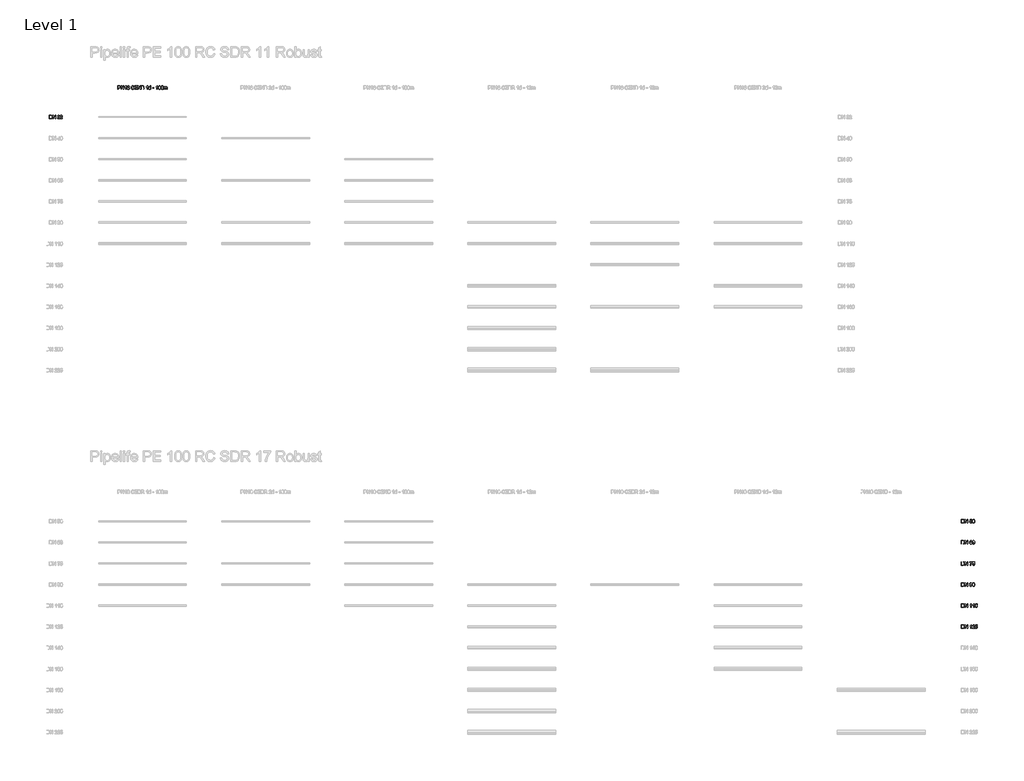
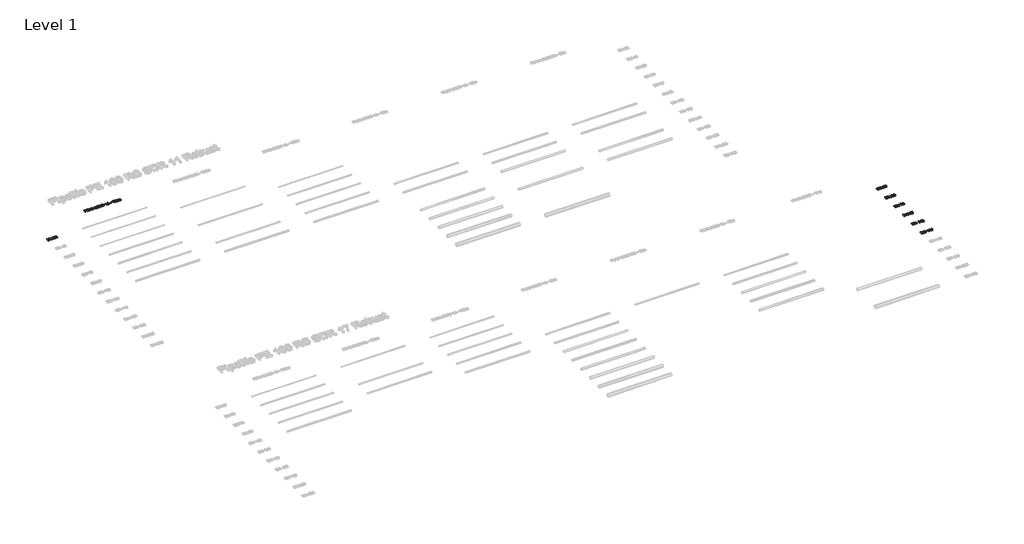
# One storey, part 10 of 13: 8 proxies.
"""IFC4 building model written with IfcOpenShell, lengths in millimetres."""

from ifc_helpers import new_model, si_unit, origin, origin_with_axes, place, context, project, spatial, polyline, outline, extrude, element, save

model = new_model("IFC4")

# Units and contexts
model_context = context("Model", 3, world=origin())
ifc_project = project(units=[si_unit("LENGTHUNIT", "METRE", prefix="MILLI")], contexts=[model_context])

# Site, building, storey
site = spatial("IfcSite", under=ifc_project)
building = spatial("IfcBuilding", under=site)
storey = spatial("IfcBuildingStorey", under=building, Name="Level 1", Elevation=0.0)

# Proxies
placement = place(None, origin())
element("IfcBuildingElementProxy", 1, Name="200mm Arial", ObjectType="200mm Arial", at=placement, inside=storey, context=model_context, shape_type="SweptSolid", body=[
    extrude(outline(polyline([(-19337.4878779, 486.050427), (-19337.4878779, 686.9630473), (-19268.17891, 686.9630473), (-19232.3226782, 684.0690423), (-19216.3075487, 678.4894987), (-19202.7940167, 669.697119), (-19188.90034, 654.393228), (-19179.0043144, 635.3614662), (-19173.0814143, 612.9697154), (-19171.1071142, 587.5858577), (-19176.4536659, 547.0452618), (-19190.187927, 517.7863805), (-19208.5329759, 499.563959), (-19232.5434074, 489.4839923), (-19264.8434466, 486.050427), (-19337.4878779, 486.050427)]), holes=[polyline([(-19312.3738004, 511.1645046), (-19267.9336553, 511.1645046), (-19235.6090907, 514.7942736), (-19216.9697363, 525.0459185), (-19208.2448016, 535.9168315), (-19201.6903707, 549.9883178), (-19197.5884865, 567.3216911), (-19196.2211917, 587.9782652), (-19198.9005989, 615.3486856), (-19206.9388205, 635.5576699), (-19218.8152776, 649.4390838), (-19233.0093913, 657.8267933), (-19268.6203684, 661.8489698), (-19312.3738004, 661.8489698), (-19312.3738004, 511.1645046)])]), origin_with_axes(), (0.0, 0.0, 1.0), 50.0),
    extrude(outline(polyline([(-19136.5752576, 486.050427), (-19136.5752576, 686.9630473), (-19109.6953465, 686.9630473), (-19004.7263505, 527.7927708), (-19004.7263505, 686.9630473), (-18979.612273, 686.9630473), (-18979.612273, 486.050427), (-19006.4921841, 486.050427), (-19111.4611801, 645.2697546), (-19111.4611801, 486.050427), (-19136.5752576, 486.050427)])), origin_with_axes(), (0.0, 0.0, 1.0), 50.0),
    extrude(outline(polyline([(-18866.5989241, 539.4178418), (-18841.4848465, 542.5571015), (-18835.8623834, 526.7749639), (-18827.627958, 516.1186488), (-18816.3769004, 510.0485959), (-18801.7045401, 508.0252449), (-18784.4876627, 510.8088853), (-18771.19486, 519.1598066), (-18762.6967859, 531.6187435), (-18759.8640945, 546.7264308), (-18762.6722604, 561.0676972), (-18771.0967581, 572.6988996), (-18783.8500006, 580.4060274), (-18799.6444009, 582.97507), (-18817.2536858, 580.2282178), (-18814.4577826, 605.3422953), (-18810.4356061, 605.0479898), (-18795.3892325, 606.8506115), (-18781.9370142, 612.2584769), (-18772.4456588, 621.4064758), (-18769.2818736, 634.4294984), (-18771.5750047, 645.2758859), (-18778.454398, 654.074397), (-18788.9512976, 659.9053266), (-18802.0969476, 661.8489698), (-18815.267123, 659.8869325), (-18826.0338027, 654.0008206), (-18833.8942147, 644.190634), (-18838.3455868, 630.4563729), (-18863.4596644, 633.5956326), (-18856.0652363, 656.1467989), (-18842.9073236, 672.9835315), (-18824.9056313, 683.4681684), (-18802.9798644, 686.9630473), (-18787.1915954, 685.2401333), (-18772.6909134, 680.0713913), (-18760.4649685, 671.9166737), (-18751.5009105, 661.2358331), (-18746.0010747, 648.9301804), (-18744.1677961, 635.9010264), (-18745.9091042, 623.7609206), (-18751.1330285, 612.7489862), (-18759.7659927, 603.3679953), (-18771.7344202, 596.12072), (-18756.0135963, 589.7686242), (-18744.3639998, 578.9528936), (-18737.1535127, 564.2621392), (-18734.750017, 546.2849724), (-18739.5570084, 521.808557), (-18753.9779826, 501.354318), (-18775.744334, 487.521955), (-18802.5874569, 482.9111674), (-18826.8676686, 486.8475047), (-18846.6351945, 498.6565167), (-18860.3817184, 516.7195227), (-18866.5989241, 539.4178418)])), origin_with_axes(), (0.0, 0.0, 1.0), 50.0),
    extrude(outline(polyline([(-18584.0655518, 511.1645046), (-18584.0655518, 486.050427), (-18715.9144588, 486.050427), (-18713.2166575, 503.3654063), (-18697.9618175, 530.0245882), (-18666.5201696, 559.1363168), (-18623.1591451, 600.9767623), (-18615.028953, 615.3977366), (-18612.318889, 629.4263033), (-18614.8756689, 642.0017362), (-18622.5460085, 652.4557162), (-18634.3366264, 659.5006564), (-18649.2542413, 661.8489698), (-18664.9198829, 659.5558387), (-18677.0906456, 652.6764454), (-18684.9449262, 641.7503501), (-18687.6611216, 627.3171132), (-18712.7751992, 630.4563729), (-18706.6867521, 654.7488473), (-18693.5227081, 672.4930222), (-18673.96978, 683.3455411), (-18648.7146811, 686.9630473), (-18623.2756411, 682.9408709), (-18603.7595012, 670.8743414), (-18591.3434839, 652.8481237), (-18587.2048115, 630.9468822), (-18591.6684463, 607.1326544), (-18606.5063535, 582.5090862), (-18642.4852126, 548.0998569), (-18671.376212, 523.9422725), (-18682.7069774, 511.1645046), (-18584.0655518, 511.1645046)])), origin_with_axes(), (0.0, 0.0, 1.0), 50.0),
])
element("IfcBuildingElementProxy", 2, Name="200mm Arial", ObjectType="200mm Arial", at=placement, inside=storey, context=model_context, shape_type="SweptSolid", body=[
    extrude(outline(polyline([(-15440.6250972, 2161.9491293), (-15440.6250972, 2362.8617496), (-15366.1657813, 2362.8617496), (-15336.1466105, 2360.9487633), (-15311.7437715, 2351.5555097), (-15302.8716841, 2343.2291138), (-15295.9248457, 2332.1313403), (-15291.4366854, 2319.0408726), (-15289.9406319, 2304.7363944), (-15293.9812025, 2281.0570566), (-15306.1029143, 2261.326319), (-15315.8104004, 2253.5578775), (-15328.7705765, 2248.0089907), (-15364.4489987, 2243.5698813), (-15415.5110196, 2243.5698813), (-15415.5110196, 2161.9491293), (-15440.6250972, 2161.9491293)]), holes=[polyline([(-15415.5110196, 2268.6839589), (-15362.9774707, 2268.6839589), (-15340.7083473, 2270.9893527), (-15325.9930675, 2277.9055342), (-15317.789299, 2289.0033077), (-15315.0547095, 2303.8534776), (-15316.6672589, 2315.1351921), (-15321.5049071, 2324.6510731), (-15328.9667803, 2331.8125092), (-15338.4520044, 2336.0308895), (-15363.5660819, 2337.7476721), (-15415.5110196, 2337.7476721), (-15415.5110196, 2268.6839589)])]), origin_with_axes(), (0.0, 0.0, 1.0), 50.0),
    extrude(outline(polyline([(-15255.4087753, 2161.9491293), (-15255.4087753, 2362.8617496), (-15228.5288642, 2362.8617496), (-15123.5598682, 2203.6914731), (-15123.5598682, 2362.8617496), (-15098.4457907, 2362.8617496), (-15098.4457907, 2161.9491293), (-15125.3257018, 2161.9491293), (-15230.2946978, 2321.1684569), (-15230.2946978, 2161.9491293), (-15255.4087753, 2161.9491293)])), origin_with_axes(), (0.0, 0.0, 1.0), 50.0),
    extrude(outline(polyline([(-14969.7361433, 2161.9491293), (-14994.8502209, 2161.9491293), (-14994.8502209, 2318.5197065), (-15018.6399232, 2301.5726092), (-15045.0783759, 2288.8929431), (-15045.0783759, 2312.6335946), (-15008.265651, 2336.1289913), (-14994.7950386, 2349.7038369), (-14985.9229511, 2362.8617496), (-14969.7361433, 2362.8617496), (-14969.7361433, 2161.9491293)])), origin_with_axes(), (0.0, 0.0, 1.0), 50.0),
    extrude(outline(polyline([(-14781.3805618, 2309.4943349), (-14806.4946393, 2306.3550752), (-14816.0105203, 2327.2998234), (-14827.4025994, 2335.1357099), (-14841.1736487, 2337.7476721), (-14863.8351797, 2331.6653565), (-14873.2713528, 2322.057505), (-14880.9784806, 2308.8321473), (-14886.1840109, 2290.1253478), (-14888.1153913, 2264.0731712), (-14878.041556, 2275.8270009), (-14865.9688952, 2284.1104772), (-14852.5718592, 2289.0217018), (-14838.5248984, 2290.6587767), (-14815.3238072, 2286.1828791), (-14795.8505869, 2272.7551863), (-14782.6436233, 2252.2396337), (-14778.2413021, 2226.5001568), (-14780.313704, 2208.5168586), (-14786.5309097, 2191.8456728), (-14796.3778845, 2177.7067415), (-14809.3395934, 2167.3202065), (-14824.8274254, 2160.9374539), (-14842.2527693, 2158.8098696), (-14870.7452298, 2164.4507269), (-14893.4374175, 2181.3732987), (-14902.09644, 2194.4821604), (-14908.281456, 2211.2453167), (-14913.2294689, 2255.7345126), (-14907.7357644, 2305.7542013), (-14900.8686338, 2324.8319484), (-14891.254651, 2339.9549641), (-14880.8343935, 2349.9766828), (-14868.7525357, 2357.1350532), (-14839.6040189, 2362.8617496), (-14817.5678874, 2359.3178198), (-14799.9218144, 2348.6860301), (-14787.5609793, 2331.8002465), (-14781.3805618, 2309.4943349)]), holes=[polyline([(-14888.1153913, 2226.8925642), (-14882.3028558, 2205.1384756), (-14866.851812, 2189.3440752), (-14844.2148066, 2183.9239472), (-14827.6417227, 2186.7321131), (-14814.6125687, 2195.1566108), (-14806.1696769, 2208.4003626), (-14803.3553796, 2225.6662909), (-14806.1328887, 2242.2393748), (-14814.4654159, 2254.8761213), (-14827.7152991, 2262.8775547), (-14845.2448762, 2265.5446992), (-14861.7934346, 2262.8775547), (-14875.631929, 2254.8761213), (-14884.9945257, 2242.5459431), (-14888.1153913, 2226.8925642)])]), origin_with_axes(), (0.0, 0.0, 1.0), 50.0),
    extrude(outline(polyline([(-14527.1005267, 2233.3672873), (-14501.9864492, 2226.8925642), (-14513.574732, 2197.6275515), (-14531.7603653, 2176.2474762), (-14555.6481696, 2163.1692713), (-14584.3429652, 2158.8098696), (-14613.4730878, 2162.1085449), (-14636.606734, 2172.0045705), (-14654.3386461, 2188.1545901), (-14667.2635669, 2210.2152471), (-14675.1546357, 2236.1509278), (-14677.784992, 2263.9260184), (-14674.8112792, 2293.221688), (-14665.8901408, 2318.5197065), (-14651.4875607, 2339.016865), (-14632.0695227, 2353.9099544), (-14609.0401098, 2362.9782456), (-14583.8034049, 2366.0010093), (-14556.2674376, 2362.0891975), (-14533.5016734, 2350.3537618), (-14516.217351, 2331.5182037), (-14505.1257089, 2306.3060242), (-14530.2397864, 2300.3218105), (-14538.946327, 2318.6362025), (-14550.8411782, 2331.1993726), (-14566.0714928, 2338.465042), (-14584.7844236, 2340.8869318), (-14606.3545712, 2338.2013932), (-14624.0742207, 2330.1447775), (-14637.5203076, 2317.5632133), (-14646.2697677, 2301.3028291), (-14651.0706277, 2282.9209921), (-14652.6709144, 2263.9750693), (-14650.7763221, 2240.7739782), (-14645.0925453, 2220.7121467), (-14635.4049861, 2204.5559957), (-14621.4990467, 2193.0719461), (-14604.8278609, 2186.2109469), (-14586.8445628, 2183.9239472), (-14565.8814204, 2187.0386814), (-14548.413157, 2196.3828841), (-14535.2245875, 2211.8584534), (-14527.1005267, 2233.3672873)])), origin_with_axes(), (0.0, 0.0, 1.0), 50.0),
    extrude(outline(polyline([(-14483.150891, 2161.9491293), (-14483.150891, 2187.9951746), (-14380.3891871, 2313.810817), (-14360.8669158, 2337.7476721), (-14470.5938523, 2337.7476721), (-14470.5938523, 2362.8617496), (-14329.3271661, 2362.8617496), (-14329.3271661, 2337.7476721), (-14441.8009548, 2200.061704), (-14452.3959562, 2187.0632069), (-14326.1879064, 2187.0632069), (-14326.1879064, 2161.9491293), (-14483.150891, 2161.9491293)])), origin_with_axes(), (0.0, 0.0, 1.0), 50.0),
    extrude(outline(polyline([(-14297.9345692, 2161.9491293), (-14297.9345692, 2362.8617496), (-14271.0546581, 2362.8617496), (-14166.0856621, 2203.6914731), (-14166.0856621, 2362.8617496), (-14140.9715846, 2362.8617496), (-14140.9715846, 2161.9491293), (-14167.8514957, 2161.9491293), (-14272.8204917, 2321.1684569), (-14272.8204917, 2161.9491293), (-14297.9345692, 2161.9491293)])), origin_with_axes(), (0.0, 0.0, 1.0), 50.0),
    extrude(outline(polyline([(-14097.0219489, 2161.9491293), (-14097.0219489, 2362.8617496), (-14020.3553411, 2362.8617496), (-13999.2695714, 2361.3840903), (-13982.8068521, 2356.9511123), (-13970.1884997, 2349.4524509), (-13960.6358306, 2338.7777417), (-13954.6209599, 2326.2207029), (-13952.6160031, 2313.075053), (-13954.3021289, 2300.9778667), (-13959.3605063, 2289.6041817), (-13967.8279236, 2279.6529737), (-13979.7411688, 2271.8232186), (-13965.510267, 2264.3920023), (-13954.9949733, 2253.0857623), (-13948.5018561, 2238.6525253), (-13946.3374837, 2221.8403182), (-13952.2481211, 2194.8377797), (-13966.8898245, 2175.6098141), (-13988.742015, 2165.4072201), (-14020.9439523, 2161.9491293), (-14097.0219489, 2161.9491293)]), holes=[polyline([(-14071.9078714, 2187.0632069), (-14020.404392, 2187.0632069), (-14001.7650376, 2188.0442255), (-13985.9951628, 2193.5134045), (-13975.5473141, 2204.6724917), (-13971.4515612, 2221.5950635), (-13976.2585526, 2241.1173347), (-13982.5554661, 2248.1745376), (-13991.8322238, 2252.7669312), (-14022.8569387, 2256.1269201), (-14071.9078714, 2256.1269201), (-14071.9078714, 2187.0632069)]), polyline([(-14071.9078714, 2281.2409976), (-14026.0452493, 2281.2409976), (-13999.2634401, 2283.3992387), (-13983.1502087, 2292.6943904), (-13977.7300806, 2309.0528765), (-13982.7823267, 2325.435888), (-13997.2523518, 2335.1234472), (-14029.5278655, 2337.7476721), (-14071.9078714, 2337.7476721), (-14071.9078714, 2281.2409976)])]), origin_with_axes(), (0.0, 0.0, 1.0), 50.0),
    extrude(outline(polyline([(-13748.5641231, 2161.9491293), (-13773.6782006, 2161.9491293), (-13773.6782006, 2318.5197065), (-13797.467903, 2301.5726092), (-13823.9063557, 2288.8929431), (-13823.9063557, 2312.6335946), (-13787.0936307, 2336.1289913), (-13773.6230183, 2349.7038369), (-13764.7509309, 2362.8617496), (-13748.5641231, 2362.8617496), (-13748.5641231, 2161.9491293)])), origin_with_axes(), (0.0, 0.0, 1.0), 50.0),
    extrude(outline(polyline([(-13591.6011385, 2161.9491293), (-13591.6011385, 2185.6407298), (-13599.1151282, 2173.9022285), (-13608.2171419, 2165.5175847), (-13618.9071796, 2160.4867984), (-13631.1852411, 2158.8098696), (-13647.4210999, 2161.2378908), (-13662.2835325, 2168.5219543), (-13674.8650967, 2180.1531567), (-13684.2583503, 2195.6225946), (-13690.107674, 2214.3048686), (-13692.0574486, 2235.5745793), (-13690.2609582, 2256.5806412), (-13684.871487, 2275.5510895), (-13675.8951663, 2291.4068034), (-13663.3381275, 2303.0686627), (-13648.1507325, 2310.2423616), (-13631.283343, 2312.6335946), (-13618.9960844, 2310.9229433), (-13608.1313028, 2305.7909895), (-13591.6011385, 2288.0100264), (-13591.6011385, 2362.8617496), (-13566.4870609, 2362.8617496), (-13566.4870609, 2161.9491293), (-13591.6011385, 2161.9491293)]), holes=[polyline([(-13666.9433711, 2235.6726812), (-13664.1106797, 2212.955968), (-13655.6126056, 2196.799817), (-13643.2640333, 2187.1429146), (-13628.8798473, 2183.9239472), (-13614.5017927, 2186.9957618), (-13602.4659201, 2196.2112058), (-13594.3173339, 2211.7419574), (-13591.6011385, 2233.7596948), (-13594.3663848, 2257.83144), (-13602.6621238, 2274.5210199), (-13615.0045647, 2284.2698927), (-13629.9099169, 2287.519517), (-13644.4412557, 2284.3986514), (-13656.3483696, 2275.0360547), (-13664.2946207, 2258.9534801), (-13666.9433711, 2235.6726812)])]), origin_with_axes(), (0.0, 0.0, 1.0), 50.0),
    extrude(outline(polyline([(-13462.8914911, 2221.5950635), (-13462.8914911, 2246.709141), (-13384.4099988, 2246.709141), (-13384.4099988, 2221.5950635), (-13462.8914911, 2221.5950635)])), origin_with_axes(), (0.0, 0.0, 1.0), 50.0),
    extrude(outline(polyline([(-13189.7758979, 2161.9491293), (-13214.8899754, 2161.9491293), (-13214.8899754, 2318.5197065), (-13238.6796778, 2301.5726092), (-13265.1181305, 2288.8929431), (-13265.1181305, 2312.6335946), (-13228.3054055, 2336.1289913), (-13214.8347931, 2349.7038369), (-13205.9627057, 2362.8617496), (-13189.7758979, 2362.8617496), (-13189.7758979, 2161.9491293)])), origin_with_axes(), (0.0, 0.0, 1.0), 50.0),
    extrude(outline(polyline([(-13130.1299637, 2260.7867587), (-13128.2844224, 2292.9457765), (-13122.7477983, 2318.5932829), (-13113.5752739, 2338.1216855), (-13100.8220314, 2351.9233917), (-13084.3961003, 2360.1271601), (-13064.2055102, 2362.8617496), (-13048.7299409, 2361.2430689), (-13034.8730524, 2356.3870265), (-13023.2847696, 2348.483695), (-13014.6150172, 2337.7231466), (-13002.8427934, 2307.9982814), (-12998.2810566, 2260.7867587), (-13000.1082039, 2228.811682), (-13005.5896456, 2203.2254892), (-13014.7069877, 2183.6786925), (-13027.4418361, 2169.821804), (-13043.9045554, 2161.5628532), (-13064.2055102, 2158.8098696), (-13090.3006064, 2163.5923356), (-13110.1171832, 2177.9397334), (-13118.8727747, 2193.0688805), (-13125.1267686, 2211.919767), (-13130.1299637, 2260.7867587)]), holes=[polyline([(-13105.0158862, 2260.8358096), (-13102.0728302, 2221.3314147), (-13093.2436623, 2198.4675487), (-13080.0980124, 2187.5598476), (-13064.2055102, 2183.9239472), (-13048.313008, 2187.5721103), (-13035.167358, 2198.5165997), (-13026.3381901, 2221.3927284), (-13023.3951342, 2260.8358096), (-13026.2400883, 2299.4511564), (-13034.7749506, 2322.492832), (-13047.8960751, 2333.9339621), (-13064.4998158, 2337.7476721), (-13080.2206397, 2334.3876832), (-13092.8512549, 2324.3077165), (-13101.9747284, 2299.8313011), (-13105.0158862, 2260.8358096)])]), origin_with_axes(), (0.0, 0.0, 1.0), 50.0),
    extrude(outline(polyline([(-12976.3062388, 2260.7867587), (-12974.4606975, 2292.9457765), (-12968.9240734, 2318.5932829), (-12959.751549, 2338.1216855), (-12946.9983065, 2351.9233917), (-12930.5723754, 2360.1271601), (-12910.3817853, 2362.8617496), (-12894.906216, 2361.2430689), (-12881.0493275, 2356.3870265), (-12869.4610447, 2348.483695), (-12860.7912923, 2337.7231466), (-12849.0190685, 2307.9982814), (-12844.4573317, 2260.7867587), (-12846.284479, 2228.811682), (-12851.7659207, 2203.2254892), (-12860.8832628, 2183.6786925), (-12873.6181112, 2169.821804), (-12890.0808305, 2161.5628532), (-12910.3817853, 2158.8098696), (-12936.4768815, 2163.5923356), (-12956.2934583, 2177.9397334), (-12965.0490497, 2193.0688805), (-12971.3030437, 2211.919767), (-12976.3062388, 2260.7867587)]), holes=[polyline([(-12951.1921613, 2260.8358096), (-12948.2491053, 2221.3314147), (-12939.4199374, 2198.4675487), (-12926.2742875, 2187.5598476), (-12910.3817853, 2183.9239472), (-12894.4892831, 2187.5721103), (-12881.3436331, 2198.5165997), (-12872.5144652, 2221.3927284), (-12869.5714093, 2260.8358096), (-12872.4163634, 2299.4511564), (-12880.9512256, 2322.492832), (-12894.0723501, 2333.9339621), (-12910.6760909, 2337.7476721), (-12926.3969148, 2334.3876832), (-12939.02753, 2324.3077165), (-12948.1510034, 2299.8313011), (-12951.1921613, 2260.8358096)])]), origin_with_axes(), (0.0, 0.0, 1.0), 50.0),
    extrude(outline(polyline([(-12816.2039945, 2161.9491293), (-12816.2039945, 2309.4943349), (-12791.089917, 2309.4943349), (-12791.089917, 2285.2141232), (-12783.5360733, 2296.367079), (-12773.8239887, 2305.1042764), (-12762.2847567, 2310.751265), (-12749.2494714, 2312.6335946), (-12735.2822183, 2310.7144768), (-12724.0863429, 2304.9571236), (-12715.7231589, 2295.7416796), (-12710.2539799, 2283.4482896), (-12701.0998496, 2296.2168605), (-12690.6581323, 2305.3372683), (-12678.928828, 2310.809513), (-12665.9119367, 2312.6335946), (-12647.033459, 2309.5985681), (-12633.0723373, 2300.4934887), (-12624.4455045, 2285.0731018), (-12621.5698936, 2263.0921525), (-12621.5698936, 2161.9491293), (-12646.6839711, 2161.9491293), (-12646.6839711, 2252.3009474), (-12649.0138904, 2273.2702211), (-12657.4506508, 2283.5954424), (-12671.7980487, 2287.519517), (-12685.4035511, 2285.0056567), (-12696.4951933, 2277.4640758), (-12703.8712273, 2264.3797395), (-12706.3299053, 2245.237613), (-12706.3299053, 2161.9491293), (-12731.4439828, 2161.9491293), (-12731.4439828, 2255.0968505), (-12732.8971167, 2269.2970955), (-12737.2565183, 2279.4261131), (-12744.9268579, 2285.4961661), (-12756.3128057, 2287.519517), (-12774.9031092, 2282.1239144), (-12782.2607491, 2275.4775131), (-12787.2639442, 2266.3295141), (-12791.089917, 2236.3593942), (-12791.089917, 2161.9491293), (-12816.2039945, 2161.9491293)])), origin_with_axes(), (0.0, 0.0, 1.0), 50.0),
])
element("IfcBuildingElementProxy", 3, Name="200mm Arial", ObjectType="200mm Arial", at=placement, inside=storey, context=model_context, shape_type="SweptSolid", body=[
    extrude(outline(polyline([(32539.3076926, -22513.949573), (32539.3076926, -22313.0369527), (32608.6166605, -22313.0369527), (32644.4728923, -22315.9309577), (32660.4880218, -22321.5105013), (32674.0015538, -22330.302881), (32687.8952305, -22345.606772), (32697.7912562, -22364.6385338), (32703.7141563, -22387.0302846), (32705.6884563, -22412.4141423), (32700.3419047, -22452.9547382), (32686.6076435, -22482.2136195), (32668.2625947, -22500.436041), (32644.2521631, -22510.5160077), (32611.9521239, -22513.949573), (32539.3076926, -22513.949573)]), holes=[polyline([(32564.4217702, -22488.8354954), (32608.8619152, -22488.8354954), (32641.1864798, -22485.2057264), (32659.8258342, -22474.9540815), (32668.5507689, -22464.0831685), (32675.1051998, -22450.0116822), (32679.207084, -22432.6783089), (32680.5743788, -22412.0217348), (32677.8949716, -22384.6513144), (32669.85675, -22364.4423301), (32657.9802929, -22350.5609162), (32643.7861793, -22342.1732067), (32608.1752021, -22338.1510302), (32564.4217702, -22338.1510302), (32564.4217702, -22488.8354954)])]), origin_with_axes(), (0.0, 0.0, 1.0), 50.0),
    extrude(outline(polyline([(32740.2203129, -22513.949573), (32740.2203129, -22313.0369527), (32767.100224, -22313.0369527), (32872.06922, -22472.2072292), (32872.06922, -22313.0369527), (32897.1832975, -22313.0369527), (32897.1832975, -22513.949573), (32870.3033864, -22513.949573), (32765.3343905, -22354.7302454), (32765.3343905, -22513.949573), (32740.2203129, -22513.949573)])), origin_with_axes(), (0.0, 0.0, 1.0), 50.0),
    extrude(outline(polyline([(33010.1966465, -22460.5821582), (33035.310724, -22457.4428985), (33039.9215117, -22472.5199289), (33047.9658646, -22483.3172655), (33059.4069947, -22489.8103827), (33074.2081136, -22491.9747551), (33092.2098059, -22488.9642541), (33105.6988124, -22479.9327511), (33114.1233101, -22465.9225785), (33116.931476, -22447.9760685), (33114.3011197, -22431.0780222), (33106.4100509, -22418.1531014), (33093.1969559, -22409.9493329), (33074.6005211, -22407.2147434), (33052.5521268, -22411.5802764), (33038.4499837, -22422.9110419), (33013.3359061, -22419.7717822), (33035.310724, -22316.1762123), (33132.6277745, -22316.1762123), (33132.6277745, -22341.2902899), (33055.6178101, -22341.2902899), (33044.8756559, -22396.619742), (33062.8160345, -22385.7304349), (33081.6148045, -22382.1006659), (33105.0795444, -22386.601089), (33124.558896, -22400.1023582), (33137.6738892, -22420.6792244), (33142.0455535, -22446.4064386), (33138.1092162, -22471.5205162), (33126.3002041, -22493.0048247), (33115.8646182, -22503.5415782), (33103.6877242, -22511.0678307), (33089.769522, -22515.5835821), (33074.1100118, -22517.0888326), (33049.443524, -22513.2199403), (33029.7924941, -22501.6132634), (33016.3218817, -22483.6177025), (33010.1966465, -22460.5821582)])), origin_with_axes(), (0.0, 0.0, 1.0), 50.0),
    extrude(outline(polyline([(33164.0203714, -22415.1119436), (33165.8659127, -22382.9529258), (33171.4025367, -22357.3054194), (33180.5750612, -22337.7770168), (33193.3283037, -22323.9753106), (33209.7542347, -22315.7715422), (33229.9448249, -22313.0369527), (33245.4203942, -22314.6556334), (33259.2772827, -22319.5116758), (33270.8655655, -22327.4150073), (33279.5353179, -22338.1755557), (33291.3075417, -22367.9004209), (33295.8692784, -22415.1119436), (33294.0421312, -22447.0870203), (33288.5606895, -22472.6732131), (33279.4433474, -22492.2200098), (33266.708499, -22506.0768983), (33250.2457797, -22514.335849), (33229.9448249, -22517.0888326), (33203.8497287, -22512.3063667), (33184.0331519, -22497.9589689), (33175.2775604, -22482.8298218), (33169.0235665, -22463.9789353), (33164.0203714, -22415.1119436)]), holes=[polyline([(33189.1344489, -22415.0628927), (33192.0775049, -22454.5672876), (33200.9066728, -22477.4311536), (33214.0523227, -22488.3388547), (33229.9448249, -22491.9747551), (33245.8373271, -22488.326592), (33258.9829771, -22477.3821026), (33267.8121449, -22454.5059739), (33270.7552009, -22415.0628927), (33267.9102468, -22376.4475459), (33259.3753845, -22353.4058703), (33246.25426, -22341.9647402), (33229.6505193, -22338.1510302), (33213.9296954, -22341.5110191), (33201.2990802, -22351.5909857), (33192.1756067, -22376.0674012), (33189.1344489, -22415.0628927)])]), origin_with_axes(), (0.0, 0.0, 1.0), 50.0),
])
element("IfcBuildingElementProxy", 4, Name="200mm Arial", ObjectType="200mm Arial", at=placement, inside=storey, context=model_context, shape_type="SweptSolid", body=[
    extrude(outline(polyline([(32539.3076926, -23713.949573), (32539.3076926, -23513.0369527), (32608.6166605, -23513.0369527), (32644.4728923, -23515.9309577), (32660.4880218, -23521.5105013), (32674.0015538, -23530.302881), (32687.8952305, -23545.606772), (32697.7912562, -23564.6385338), (32703.7141563, -23587.0302846), (32705.6884563, -23612.4141423), (32700.3419047, -23652.9547382), (32686.6076435, -23682.2136195), (32668.2625947, -23700.436041), (32644.2521631, -23710.5160077), (32611.9521239, -23713.949573), (32539.3076926, -23713.949573)]), holes=[polyline([(32564.4217702, -23688.8354954), (32608.8619152, -23688.8354954), (32641.1864798, -23685.2057264), (32659.8258342, -23674.9540815), (32668.5507689, -23664.0831685), (32675.1051998, -23650.0116822), (32679.207084, -23632.6783089), (32680.5743788, -23612.0217348), (32677.8949716, -23584.6513144), (32669.85675, -23564.4423301), (32657.9802929, -23550.5609162), (32643.7861793, -23542.1732067), (32608.1752021, -23538.1510302), (32564.4217702, -23538.1510302), (32564.4217702, -23688.8354954)])]), origin_with_axes(), (0.0, 0.0, 1.0), 50.0),
    extrude(outline(polyline([(32740.2203129, -23713.949573), (32740.2203129, -23513.0369527), (32767.100224, -23513.0369527), (32872.06922, -23672.2072292), (32872.06922, -23513.0369527), (32897.1832975, -23513.0369527), (32897.1832975, -23713.949573), (32870.3033864, -23713.949573), (32765.3343905, -23554.7302454), (32765.3343905, -23713.949573), (32740.2203129, -23713.949573)])), origin_with_axes(), (0.0, 0.0, 1.0), 50.0),
    extrude(outline(polyline([(33138.9062938, -23566.4043674), (33113.7922163, -23569.5436271), (33104.2763354, -23548.5988789), (33092.8842562, -23540.7629924), (33079.1132069, -23538.1510302), (33056.451676, -23544.2333458), (33047.0155028, -23553.8411973), (33039.308375, -23567.066555), (33034.1028448, -23585.7733545), (33032.1714643, -23611.8255311), (33042.2452996, -23600.0717013), (33054.3179604, -23591.7882251), (33067.7149964, -23586.8770005), (33081.7619573, -23585.2399256), (33104.9630484, -23589.7158232), (33124.4362687, -23603.143516), (33137.6432323, -23623.6590686), (33142.0455535, -23649.3985455), (33139.9731516, -23667.3818437), (33133.7559459, -23684.0530295), (33123.9089712, -23698.1919608), (33110.9472622, -23708.5784958), (33095.4594302, -23714.9612484), (33078.0340864, -23717.0888326), (33049.5416258, -23711.4479754), (33026.8494381, -23694.5254036), (33018.1904156, -23681.4165418), (33012.0053996, -23664.6533856), (33007.0573868, -23620.1641897), (33012.5510912, -23570.144501), (33019.4182218, -23551.0667539), (33029.0322046, -23535.9437382), (33039.4524621, -23525.9220195), (33051.53432, -23518.763649), (33080.6828367, -23513.0369527), (33102.7189682, -23516.5808825), (33120.3650413, -23527.2126722), (33132.7258763, -23544.0984558), (33138.9062938, -23566.4043674)]), holes=[polyline([(33032.1714643, -23649.0061381), (33037.9839998, -23670.7602267), (33053.4350436, -23686.554627), (33076.0720491, -23691.9747551), (33092.6451329, -23689.1665892), (33105.6742869, -23680.7420915), (33114.1171787, -23667.4983397), (33116.931476, -23650.2324114), (33114.1539669, -23633.6593275), (33105.8214397, -23621.022581), (33092.5715565, -23613.0211476), (33075.0419795, -23610.3540031), (33058.4934211, -23613.0211476), (33044.6549267, -23621.022581), (33035.2923299, -23633.3527592), (33032.1714643, -23649.0061381)])]), origin_with_axes(), (0.0, 0.0, 1.0), 50.0),
    extrude(outline(polyline([(33164.0203714, -23660.5821582), (33189.1344489, -23657.4428985), (33194.7569121, -23673.2250361), (33202.9913374, -23683.8813512), (33214.2423951, -23689.9514041), (33228.9147553, -23691.9747551), (33246.1316327, -23689.1911147), (33259.4244355, -23680.8401934), (33267.9225095, -23668.3812565), (33270.7552009, -23653.2735692), (33267.947035, -23638.9323028), (33259.5225373, -23627.3011004), (33246.7692948, -23619.5939726), (33230.9748945, -23617.02493), (33213.3656097, -23619.7717822), (33216.1615128, -23594.6577047), (33220.1836893, -23594.9520102), (33235.2300629, -23593.1493885), (33248.6822812, -23587.7415231), (33258.1736367, -23578.5935242), (33261.3374218, -23565.5705016), (33259.0442907, -23554.7241141), (33252.1648974, -23545.925603), (33241.6679978, -23540.0946734), (33228.5223479, -23538.1510302), (33215.3521724, -23540.1130675), (33204.5854927, -23545.9991794), (33196.7250807, -23555.809366), (33192.2737086, -23569.5436271), (33167.1596311, -23566.4043674), (33174.5540592, -23543.8532011), (33187.7119719, -23527.0164685), (33205.7136642, -23516.5318316), (33227.6394311, -23513.0369527), (33243.4277, -23514.7598667), (33257.928382, -23519.9286087), (33270.154327, -23528.0833263), (33279.1183849, -23538.7641669), (33284.6182208, -23551.0698196), (33286.4514994, -23564.0989736), (33284.7101913, -23576.2390794), (33279.4862669, -23587.2510138), (33270.8533028, -23596.6320047), (33258.8848752, -23603.87928), (33274.6056991, -23610.2313758), (33286.2552956, -23621.0471064), (33293.4657827, -23635.7378608), (33295.8692784, -23653.7150276), (33291.062287, -23678.191443), (33276.6413128, -23698.645682), (33254.8749614, -23712.478045), (33228.0318385, -23717.0888326), (33203.7516269, -23713.1524953), (33183.984101, -23701.3434833), (33170.2375771, -23683.2804773), (33164.0203714, -23660.5821582)])), origin_with_axes(), (0.0, 0.0, 1.0), 50.0),
])
element("IfcBuildingElementProxy", 5, Name="200mm Arial", ObjectType="200mm Arial", at=placement, inside=storey, context=model_context, shape_type="SweptSolid", body=[
    extrude(outline(polyline([(32539.3076926, -24913.949573), (32539.3076926, -24713.0369527), (32608.6166605, -24713.0369527), (32644.4728923, -24715.9309577), (32660.4880218, -24721.5105013), (32674.0015538, -24730.302881), (32687.8952305, -24745.606772), (32697.7912562, -24764.6385338), (32703.7141563, -24787.0302846), (32705.6884563, -24812.4141423), (32700.3419047, -24852.9547382), (32686.6076435, -24882.2136195), (32668.2625947, -24900.436041), (32644.2521631, -24910.5160077), (32611.9521239, -24913.949573), (32539.3076926, -24913.949573)]), holes=[polyline([(32564.4217702, -24888.8354954), (32608.8619152, -24888.8354954), (32641.1864798, -24885.2057264), (32659.8258342, -24874.9540815), (32668.5507689, -24864.0831685), (32675.1051998, -24850.0116822), (32679.207084, -24832.6783089), (32680.5743788, -24812.0217348), (32677.8949716, -24784.6513144), (32669.85675, -24764.4423301), (32657.9802929, -24750.5609162), (32643.7861793, -24742.1732067), (32608.1752021, -24738.1510302), (32564.4217702, -24738.1510302), (32564.4217702, -24888.8354954)])]), origin_with_axes(), (0.0, 0.0, 1.0), 50.0),
    extrude(outline(polyline([(32740.2203129, -24913.949573), (32740.2203129, -24713.0369527), (32767.100224, -24713.0369527), (32872.06922, -24872.2072292), (32872.06922, -24713.0369527), (32897.1832975, -24713.0369527), (32897.1832975, -24913.949573), (32870.3033864, -24913.949573), (32765.3343905, -24754.7302454), (32765.3343905, -24913.949573), (32740.2203129, -24913.949573)])), origin_with_axes(), (0.0, 0.0, 1.0), 50.0),
    extrude(outline(polyline([(33010.1966465, -24741.2902899), (33010.1966465, -24716.1762123), (33142.0455535, -24716.1762123), (33142.0455535, -24736.4832985), (33123.2529149, -24760.2668695), (33104.6442174, -24790.5129008), (33088.230549, -24824.4622776), (33076.0229981, -24859.3558849), (33066.7033209, -24913.949573), (33041.5892434, -24913.949573), (33044.3054388, -24888.0629432), (33051.5711082, -24857.2957457), (33063.1900479, -24824.6830068), (33078.9660541, -24793.2597531), (33097.3846793, -24764.8531317), (33116.931476, -24741.2902899), (33010.1966465, -24741.2902899)])), origin_with_axes(), (0.0, 0.0, 1.0), 50.0),
    extrude(outline(polyline([(33164.0203714, -24860.5821582), (33189.1344489, -24857.4428985), (33193.7452366, -24872.5199289), (33201.7895895, -24883.3172655), (33213.2307196, -24889.8103827), (33228.0318385, -24891.9747551), (33246.0335308, -24888.9642541), (33259.5225373, -24879.9327511), (33267.947035, -24865.9225785), (33270.7552009, -24847.9760685), (33268.1248446, -24831.0780222), (33260.2337758, -24818.1531014), (33247.0206809, -24809.9493329), (33228.424246, -24807.2147434), (33206.3758518, -24811.5802764), (33192.2737086, -24822.9110419), (33167.1596311, -24819.7717822), (33189.1344489, -24716.1762123), (33286.4514994, -24716.1762123), (33286.4514994, -24741.2902899), (33209.441535, -24741.2902899), (33198.6993808, -24796.619742), (33216.6397594, -24785.7304349), (33235.4385294, -24782.1006659), (33258.9032693, -24786.601089), (33278.3826209, -24800.1023582), (33291.4976141, -24820.6792244), (33295.8692784, -24846.4064386), (33291.9329411, -24871.5205162), (33280.123929, -24893.0048247), (33269.6883431, -24903.5415782), (33257.5114491, -24911.0678307), (33243.5932469, -24915.5835821), (33227.9337367, -24917.0888326), (33203.2672489, -24913.2199403), (33183.616219, -24901.6132634), (33170.1456066, -24883.6177025), (33164.0203714, -24860.5821582)])), origin_with_axes(), (0.0, 0.0, 1.0), 50.0),
])
element("IfcBuildingElementProxy", 6, Name="200mm Arial", ObjectType="200mm Arial", at=placement, inside=storey, context=model_context, shape_type="SweptSolid", body=[
    extrude(outline(polyline([(32539.3076926, -26113.949573), (32539.3076926, -25913.0369527), (32608.6166605, -25913.0369527), (32644.4728923, -25915.9309577), (32660.4880218, -25921.5105013), (32674.0015538, -25930.302881), (32687.8952305, -25945.606772), (32697.7912562, -25964.6385338), (32703.7141563, -25987.0302846), (32705.6884563, -26012.4141423), (32700.3419047, -26052.9547382), (32686.6076435, -26082.2136195), (32668.2625947, -26100.436041), (32644.2521631, -26110.5160077), (32611.9521239, -26113.949573), (32539.3076926, -26113.949573)]), holes=[polyline([(32564.4217702, -26088.8354954), (32608.8619152, -26088.8354954), (32641.1864798, -26085.2057264), (32659.8258342, -26074.9540815), (32668.5507689, -26064.0831685), (32675.1051998, -26050.0116822), (32679.207084, -26032.6783089), (32680.5743788, -26012.0217348), (32677.8949716, -25984.6513144), (32669.85675, -25964.4423301), (32657.9802929, -25950.5609162), (32643.7861793, -25942.1732067), (32608.1752021, -25938.1510302), (32564.4217702, -25938.1510302), (32564.4217702, -26088.8354954)])]), origin_with_axes(), (0.0, 0.0, 1.0), 50.0),
    extrude(outline(polyline([(32740.2203129, -26113.949573), (32740.2203129, -25913.0369527), (32767.100224, -25913.0369527), (32872.06922, -26072.2072292), (32872.06922, -25913.0369527), (32897.1832975, -25913.0369527), (32897.1832975, -26113.949573), (32870.3033864, -26113.949573), (32765.3343905, -25954.7302454), (32765.3343905, -26113.949573), (32740.2203129, -26113.949573)])), origin_with_axes(), (0.0, 0.0, 1.0), 50.0),
    extrude(outline(polyline([(33013.3359061, -26063.7214179), (33038.4499837, -26060.5821582), (33042.7419403, -26074.8375855), (33049.7316982, -26084.5435388), (33059.2475791, -26090.116951), (33071.1179049, -26091.9747551), (33091.4495165, -26087.1922892), (33105.2328285, -26074.4145212), (33113.4488598, -26052.5868562), (33117.0786288, -26023.4506021), (33116.931476, -26018.5455089), (33108.2310668, -26029.1650358), (33096.8451191, -26037.5772708), (33083.5952359, -26043.0587125), (33069.3030203, -26044.8858597), (33046.4023661, -26040.4222249), (33027.3399474, -26027.0313202), (33014.4824717, -26006.3440894), (33010.1966465, -25979.9914758), (33014.6909382, -25952.7682081), (33028.1738133, -25931.4310524), (33048.4257171, -25917.6354776), (33073.227095, -25913.0369527), (33091.9584199, -25915.6611776), (33109.0097504, -25923.5338523), (33123.271309, -25936.2625693), (33133.6333186, -25953.4549212), (33139.9424948, -25977.2200981), (33142.0455535, -26009.6672901), (33139.9486262, -26044.070388), (33133.657844, -26070.6621249), (33123.2283895, -26090.6442486), (33108.7154448, -26105.2185069), (33090.7444093, -26114.1212512), (33069.9406825, -26117.0888326), (33048.4686367, -26113.5878223), (33031.3375984, -26103.0847914), (33019.3569081, -26086.2419274), (33013.3359061, -26063.7214179)]), holes=[polyline([(33116.931476, -25979.4028646), (33114.221412, -25962.3821909), (33106.0912199, -25949.2855919), (33093.4728674, -25940.9346706), (33077.2983224, -25938.1510302), (33060.5229034, -25941.1492685), (33047.0829478, -25950.1439832), (33038.25378, -25963.9089012), (33035.310724, -25981.2177491), (33038.0943644, -25996.7362379), (33046.4452857, -26009.0541534), (33059.5541475, -26017.092375), (33076.6116093, -26019.7717822), (33092.6573957, -26017.092375), (33105.5761851, -26009.0541534), (33114.0926533, -25996.2825168), (33116.931476, -25979.4028646)])]), origin_with_axes(), (0.0, 0.0, 1.0), 50.0),
    extrude(outline(polyline([(33164.0203714, -26015.1119436), (33165.8659127, -25982.9529258), (33171.4025367, -25957.3054194), (33180.5750612, -25937.7770168), (33193.3283037, -25923.9753106), (33209.7542347, -25915.7715422), (33229.9448249, -25913.0369527), (33245.4203942, -25914.6556334), (33259.2772827, -25919.5116758), (33270.8655655, -25927.4150073), (33279.5353179, -25938.1755557), (33291.3075417, -25967.9004209), (33295.8692784, -26015.1119436), (33294.0421312, -26047.0870203), (33288.5606895, -26072.6732131), (33279.4433474, -26092.2200098), (33266.708499, -26106.0768983), (33250.2457797, -26114.335849), (33229.9448249, -26117.0888326), (33203.8497287, -26112.3063667), (33184.0331519, -26097.9589689), (33175.2775604, -26082.8298218), (33169.0235665, -26063.9789353), (33164.0203714, -26015.1119436)]), holes=[polyline([(33189.1344489, -26015.0628927), (33192.0775049, -26054.5672876), (33200.9066728, -26077.4311536), (33214.0523227, -26088.3388547), (33229.9448249, -26091.9747551), (33245.8373271, -26088.326592), (33258.9829771, -26077.3821026), (33267.8121449, -26054.5059739), (33270.7552009, -26015.0628927), (33267.9102468, -25976.4475459), (33259.3753845, -25953.4058703), (33246.25426, -25941.9647402), (33229.6505193, -25938.1510302), (33213.9296954, -25941.5110191), (33201.2990802, -25951.5909857), (33192.1756067, -25976.0674012), (33189.1344489, -26015.0628927)])]), origin_with_axes(), (0.0, 0.0, 1.0), 50.0),
])
element("IfcBuildingElementProxy", 7, Name="200mm Arial", ObjectType="200mm Arial", at=placement, inside=storey, context=model_context, shape_type="SweptSolid", body=[
    extrude(outline(polyline([(32539.3076926, -27313.949573), (32539.3076926, -27113.0369527), (32608.6166605, -27113.0369527), (32644.4728923, -27115.9309577), (32660.4880218, -27121.5105013), (32674.0015538, -27130.302881), (32687.8952305, -27145.606772), (32697.7912562, -27164.6385338), (32703.7141563, -27187.0302846), (32705.6884563, -27212.4141423), (32700.3419047, -27252.9547382), (32686.6076435, -27282.2136195), (32668.2625947, -27300.436041), (32644.2521631, -27310.5160077), (32611.9521239, -27313.949573), (32539.3076926, -27313.949573)]), holes=[polyline([(32564.4217702, -27288.8354954), (32608.8619152, -27288.8354954), (32641.1864798, -27285.2057264), (32659.8258342, -27274.9540815), (32668.5507689, -27264.0831685), (32675.1051998, -27250.0116822), (32679.207084, -27232.6783089), (32680.5743788, -27212.0217348), (32677.8949716, -27184.6513144), (32669.85675, -27164.4423301), (32657.9802929, -27150.5609162), (32643.7861793, -27142.1732067), (32608.1752021, -27138.1510302), (32564.4217702, -27138.1510302), (32564.4217702, -27288.8354954)])]), origin_with_axes(), (0.0, 0.0, 1.0), 50.0),
    extrude(outline(polyline([(32740.2203129, -27313.949573), (32740.2203129, -27113.0369527), (32767.100224, -27113.0369527), (32872.06922, -27272.2072292), (32872.06922, -27113.0369527), (32897.1832975, -27113.0369527), (32897.1832975, -27313.949573), (32870.3033864, -27313.949573), (32765.3343905, -27154.7302454), (32765.3343905, -27313.949573), (32740.2203129, -27313.949573)])), origin_with_axes(), (0.0, 0.0, 1.0), 50.0),
    extrude(outline(polyline([(33104.3744372, -27313.949573), (33079.2603597, -27313.949573), (33079.2603597, -27157.3789958), (33055.4706573, -27174.3260931), (33029.0322046, -27187.0057592), (33029.0322046, -27163.2651077), (33065.8449296, -27139.769711), (33079.315542, -27126.1948653), (33088.1876294, -27113.0369527), (33104.3744372, -27113.0369527), (33104.3744372, -27313.949573)])), origin_with_axes(), (0.0, 0.0, 1.0), 50.0),
    extrude(outline(polyline([(33258.1981621, -27313.949573), (33233.0840846, -27313.949573), (33233.0840846, -27157.3789958), (33209.2943822, -27174.3260931), (33182.8559295, -27187.0057592), (33182.8559295, -27163.2651077), (33219.6686545, -27139.769711), (33233.1392669, -27126.1948653), (33242.0113543, -27113.0369527), (33258.1981621, -27113.0369527), (33258.1981621, -27313.949573)])), origin_with_axes(), (0.0, 0.0, 1.0), 50.0),
    extrude(outline(polyline([(33317.8440963, -27215.1119436), (33319.6896376, -27182.9529258), (33325.2262617, -27157.3054194), (33334.3987861, -27137.7770168), (33347.1520286, -27123.9753106), (33363.5779597, -27115.7715422), (33383.7685498, -27113.0369527), (33399.2441191, -27114.6556334), (33413.1010076, -27119.5116758), (33424.6892904, -27127.4150073), (33433.3590428, -27138.1755557), (33445.1312666, -27167.9004209), (33449.6930034, -27215.1119436), (33447.8658561, -27247.0870203), (33442.3844144, -27272.6732131), (33433.2670723, -27292.2200098), (33420.5322239, -27306.0768983), (33404.0695046, -27314.335849), (33383.7685498, -27317.0888326), (33357.6734536, -27312.3063667), (33337.8568768, -27297.9589689), (33329.1012853, -27282.8298218), (33322.8472914, -27263.9789353), (33317.8440963, -27215.1119436)]), holes=[polyline([(33342.9581738, -27215.0628927), (33345.9012298, -27254.5672876), (33354.7303977, -27277.4311536), (33367.8760476, -27288.3388547), (33383.7685498, -27291.9747551), (33399.661052, -27288.326592), (33412.806702, -27277.3821026), (33421.6358699, -27254.5059739), (33424.5789258, -27215.0628927), (33421.7339717, -27176.4475459), (33413.1991094, -27153.4058703), (33400.0779849, -27141.9647402), (33383.4742442, -27138.1510302), (33367.7534203, -27141.5110191), (33355.1228051, -27151.5909857), (33345.9993317, -27176.0674012), (33342.9581738, -27215.0628927)])]), origin_with_axes(), (0.0, 0.0, 1.0), 50.0),
])
element("IfcBuildingElementProxy", 8, Name="200mm Arial", ObjectType="200mm Arial", at=placement, inside=storey, context=model_context, shape_type="SweptSolid", body=[
    extrude(outline(polyline([(32539.3076926, -28513.949573), (32539.3076926, -28313.0369527), (32608.6166605, -28313.0369527), (32644.4728923, -28315.9309577), (32660.4880218, -28321.5105013), (32674.0015538, -28330.302881), (32687.8952305, -28345.606772), (32697.7912562, -28364.6385338), (32703.7141563, -28387.0302846), (32705.6884563, -28412.4141423), (32700.3419047, -28452.9547382), (32686.6076435, -28482.2136195), (32668.2625947, -28500.436041), (32644.2521631, -28510.5160077), (32611.9521239, -28513.949573), (32539.3076926, -28513.949573)]), holes=[polyline([(32564.4217702, -28488.8354954), (32608.8619152, -28488.8354954), (32641.1864798, -28485.2057264), (32659.8258342, -28474.9540815), (32668.5507689, -28464.0831685), (32675.1051998, -28450.0116822), (32679.207084, -28432.6783089), (32680.5743788, -28412.0217348), (32677.8949716, -28384.6513144), (32669.85675, -28364.4423301), (32657.9802929, -28350.5609162), (32643.7861793, -28342.1732067), (32608.1752021, -28338.1510302), (32564.4217702, -28338.1510302), (32564.4217702, -28488.8354954)])]), origin_with_axes(), (0.0, 0.0, 1.0), 50.0),
    extrude(outline(polyline([(32740.2203129, -28513.949573), (32740.2203129, -28313.0369527), (32767.100224, -28313.0369527), (32872.06922, -28472.2072292), (32872.06922, -28313.0369527), (32897.1832975, -28313.0369527), (32897.1832975, -28513.949573), (32870.3033864, -28513.949573), (32765.3343905, -28354.7302454), (32765.3343905, -28513.949573), (32740.2203129, -28513.949573)])), origin_with_axes(), (0.0, 0.0, 1.0), 50.0),
    extrude(outline(polyline([(33104.3744372, -28513.949573), (33079.2603597, -28513.949573), (33079.2603597, -28357.3789958), (33055.4706573, -28374.3260931), (33029.0322046, -28387.0057592), (33029.0322046, -28363.2651077), (33065.8449296, -28339.769711), (33079.315542, -28326.1948653), (33088.1876294, -28313.0369527), (33104.3744372, -28313.0369527), (33104.3744372, -28513.949573)])), origin_with_axes(), (0.0, 0.0, 1.0), 50.0),
    extrude(outline(polyline([(33292.7300188, -28488.8354954), (33292.7300188, -28513.949573), (33160.8811117, -28513.949573), (33163.578913, -28496.6345937), (33178.833753, -28469.9754118), (33210.2754009, -28440.8636832), (33253.6364254, -28399.0232377), (33261.7666175, -28384.6022634), (33264.4766815, -28370.5736967), (33261.9199017, -28357.9982638), (33254.2495621, -28347.5442838), (33242.4589441, -28340.4993436), (33227.5413292, -28338.1510302), (33211.8756876, -28340.4441613), (33199.7049249, -28347.3235546), (33191.8506443, -28358.2496499), (33189.1344489, -28372.6828868), (33164.0203714, -28369.5436271), (33170.1088184, -28345.2511527), (33183.2728625, -28327.5069778), (33202.8257905, -28316.6544589), (33228.0808895, -28313.0369527), (33253.5199294, -28317.0591291), (33273.0360693, -28329.1256586), (33285.4520866, -28347.1518763), (33289.5907591, -28369.0531178), (33285.1271242, -28392.8673456), (33270.289217, -28417.4909138), (33234.3103579, -28451.9001431), (33205.4193586, -28476.0577275), (33194.0885931, -28488.8354954), (33292.7300188, -28488.8354954)])), origin_with_axes(), (0.0, 0.0, 1.0), 50.0),
    extrude(outline(polyline([(33317.8440963, -28460.5821582), (33342.9581738, -28457.4428985), (33347.5689615, -28472.5199289), (33355.6133145, -28483.3172655), (33367.0544445, -28489.8103827), (33381.8555634, -28491.9747551), (33399.8572557, -28488.9642541), (33413.3462622, -28479.9327511), (33421.7707599, -28465.9225785), (33424.5789258, -28447.9760685), (33421.9485696, -28431.0780222), (33414.0575008, -28418.1531014), (33400.8444058, -28409.9493329), (33382.2479709, -28407.2147434), (33360.1995767, -28411.5802764), (33346.0974335, -28422.9110419), (33320.983356, -28419.7717822), (33342.9581738, -28316.1762123), (33440.2752243, -28316.1762123), (33440.2752243, -28341.2902899), (33363.26526, -28341.2902899), (33352.5231057, -28396.619742), (33370.4634843, -28385.7304349), (33389.2622543, -28382.1006659), (33412.7269942, -28386.601089), (33432.2063459, -28400.1023582), (33445.321339, -28420.6792244), (33449.6930034, -28446.4064386), (33445.756666, -28471.5205162), (33433.947654, -28493.0048247), (33423.512068, -28503.5415782), (33411.335174, -28511.0678307), (33397.4169718, -28515.5835821), (33381.7574616, -28517.0888326), (33357.0909738, -28513.2199403), (33337.4399439, -28501.6132634), (33323.9693315, -28483.6177025), (33317.8440963, -28460.5821582)])), origin_with_axes(), (0.0, 0.0, 1.0), 50.0),
])

save(model, "model.ifc")
